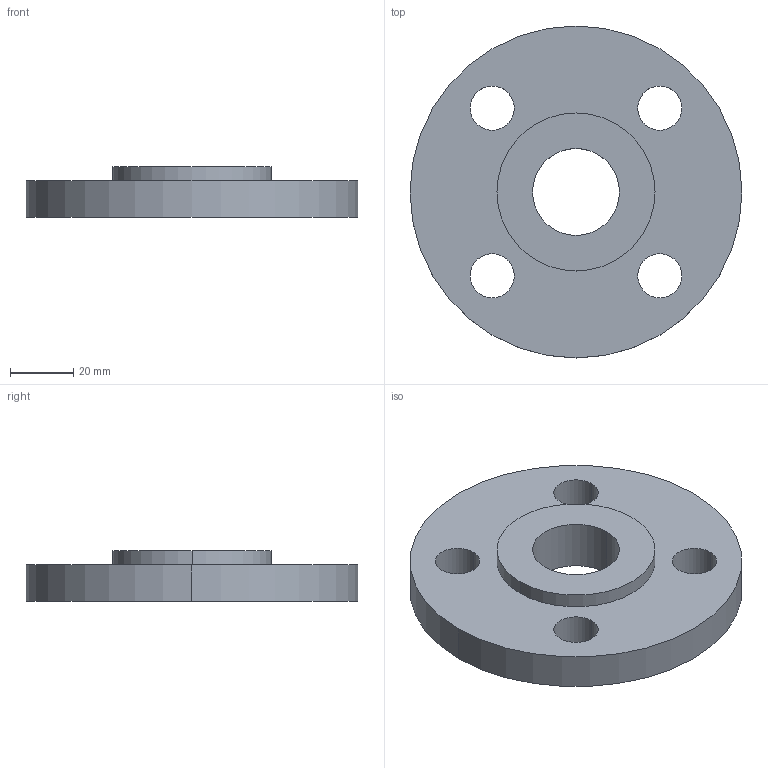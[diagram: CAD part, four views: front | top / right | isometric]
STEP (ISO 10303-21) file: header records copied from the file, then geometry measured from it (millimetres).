
FILE_DESCRIPTION (( 'STEP AP214' ), '1' );
FILE_NAME ('PN40 DN20 Type 01 - Type E Face.STEP', '2018-12-29T18:30:34', ( '' ), ( '' ), 'SwSTEP 2.0', 'SolidWorks 2019', '' );
FILE_SCHEMA (( 'AUTOMOTIVE_DESIGN' ));
Length unit declared in the file: millimetre
Products named in the file (1): PN40 DN20 Type 01 - Type E Face
Bounding box: 105 x 105 x 16 mm (x, y, z)
Volume: 91829.9 mm3; surface area: 22804.4 mm2
Topology: 1 solids, 1 shells, 17 faces, 42 edges, 28 vertices
Faces by surface type: cylinder 14, plane 3
Entity records: 578 total; most frequent: DIRECTION 106, CARTESIAN_POINT 88, ORIENTED_EDGE 84, AXIS2_PLACEMENT_3D 46, EDGE_CURVE 42, VERTEX_POINT 28, CIRCLE 28, EDGE_LOOP 28
